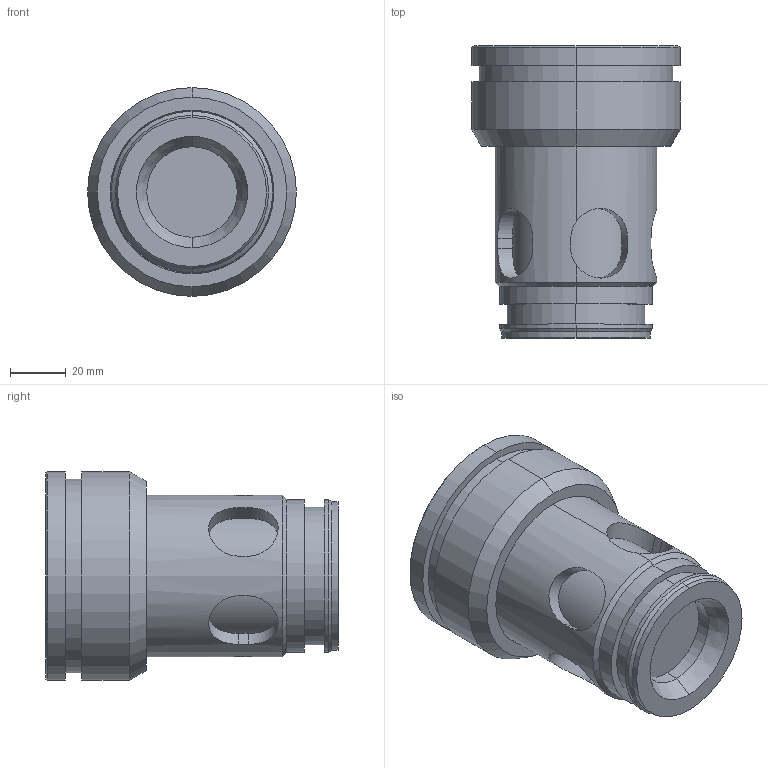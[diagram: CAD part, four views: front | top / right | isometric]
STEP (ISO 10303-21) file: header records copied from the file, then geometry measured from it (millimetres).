
FILE_DESCRIPTION (( 'STEP AP214' ), '1' );
FILE_NAME ('C.EN40-15.STEP', '2019-03-12T08:23:58', ( '' ), ( '' ), 'SwSTEP 2.0', 'SolidWorks 2018', '' );
FILE_SCHEMA (( 'AUTOMOTIVE_DESIGN' ));
Length unit declared in the file: millimetre
Products named in the file (1): C.EN40-15
Bounding box: 75 x 104.9 x 75 mm (x, y, z)
Volume: 290513.7 mm3; surface area: 35441.2 mm2
Topology: 1 solids, 1 shells, 70 faces, 155 edges, 98 vertices
Faces by surface type: cylinder 38, plane 20, cone 12
Entity records: 3640 total; most frequent: CARTESIAN_POINT 1300, DIRECTION 323, ORIENTED_EDGE 310, EDGE_CURVE 155, AXIS2_PLACEMENT_3D 123, VERTEX_POINT 98, EDGE_LOOP 81, VECTOR 77
